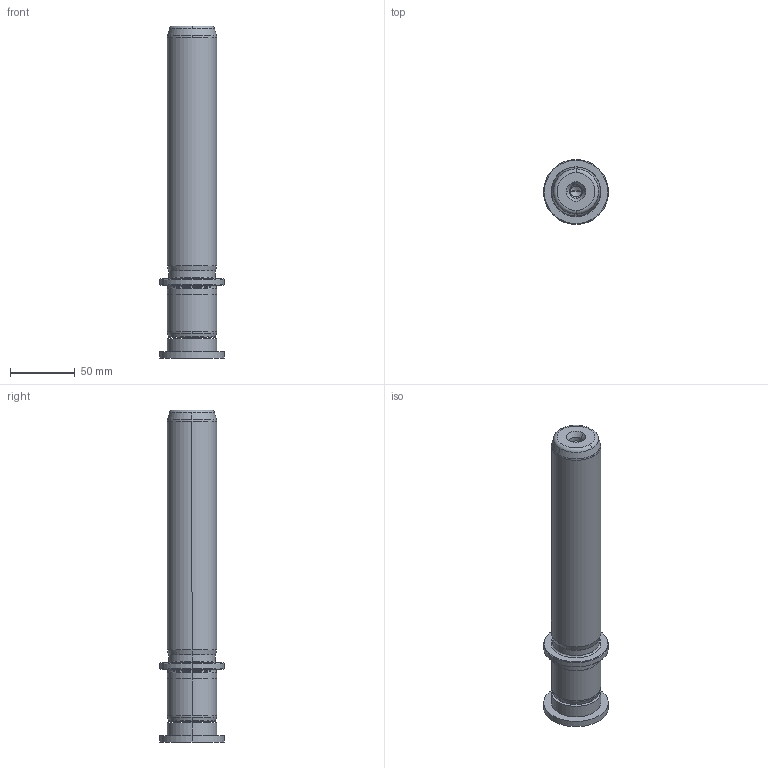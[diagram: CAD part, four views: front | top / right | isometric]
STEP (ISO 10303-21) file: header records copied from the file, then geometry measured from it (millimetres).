
FILE_DESCRIPTION((''),'2;1');
FILE_NAME('P22_038_200.stp','2009-02-16T09:16:14',(''),(''),'Mechanical Desktop 2009','Mechanical Desktop 2009',', , ');
FILE_SCHEMA(('CONFIG_CONTROL_DESIGN'));
Length unit declared in the file: millimetre
Products named in the file (2): Product; blmdl1
Assembly tree (1 placements, depth 2):
  Product
    blmdl1
Bounding box: 50 x 50 x 256 mm (x, y, z)
Volume: 291643.7 mm3; surface area: 42118 mm2
Topology: 3 solids, 3 shells, 99 faces, 237 edges, 149 vertices
Faces by surface type: cylinder 32, cone 28, plane 19, torus 10, bspline 10
Entity records: 3419 total; most frequent: CARTESIAN_POINT 923, DIRECTION 570, ORIENTED_EDGE 466, AXIS2_PLACEMENT_3D 246, EDGE_CURVE 233, CIRCLE 155, VERTEX_POINT 149, EDGE_LOOP 110
